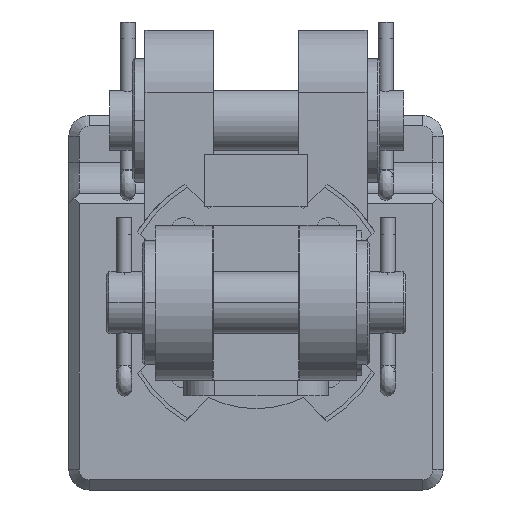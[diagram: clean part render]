
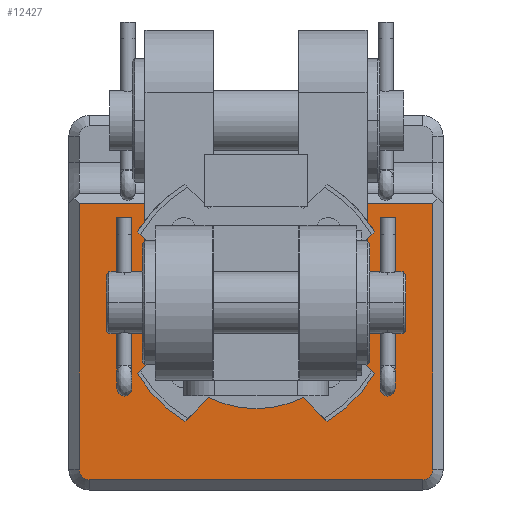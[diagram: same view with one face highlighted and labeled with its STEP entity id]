
A CAD part, left-side view. The second image highlights one B-rep face of the part: STEP entity #12427.
In plain terms, the highlighted planar face has unit normal (-1, 0, 0).
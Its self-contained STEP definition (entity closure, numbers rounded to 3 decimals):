
#11237=CARTESIAN_POINT('Vertex',(-27.5,34.25,19.25)) ;
#11248=CARTESIAN_POINT('Vertex',(-27.5,34.25,-32.259)) ;
#11251=CARTESIAN_POINT('Line Origine',(-27.5,34.25,-1.304)) ;
#11665=CARTESIAN_POINT('Line Origine',(-27.5,21.5,17.583)) ;
#11669=CARTESIAN_POINT('Vertex',(-27.5,21.5,19.25)) ;
#11671=CARTESIAN_POINT('Vertex',(-27.5,21.5,15.916)) ;
#11880=CARTESIAN_POINT('Vertex',(-27.5,-21.5,15.916)) ;
#11883=CARTESIAN_POINT('Line Origine',(-27.5,-21.5,17.583)) ;
#11887=CARTESIAN_POINT('Vertex',(-27.5,-21.5,19.25)) ;
#11958=CARTESIAN_POINT('Line Origine',(-27.5,-34.25,-1.304)) ;
#11962=CARTESIAN_POINT('Vertex',(-27.5,-34.25,-32.259)) ;
#11964=CARTESIAN_POINT('Vertex',(-27.5,-34.25,19.25)) ;
#12157=CARTESIAN_POINT('Vertex',(-27.5,-32.25,-34.259)) ;
#12160=CARTESIAN_POINT('Axis2P3D Location',(-27.5,-32.25,-32.259)) ;
#12181=CARTESIAN_POINT('Vertex',(-27.5,32.25,-34.259)) ;
#12184=CARTESIAN_POINT('Line Origine',(-27.5,0.,-34.259)) ;
#12287=CARTESIAN_POINT('Axis2P3D Location',(-27.5,32.25,-32.259)) ;
#12299=CARTESIAN_POINT('Axis2P3D Location',(-27.5,0.,-36.259)) ;
#12304=CARTESIAN_POINT('Line Origine',(-27.5,-27.875,19.25)) ;
#12309=CARTESIAN_POINT('Axis2P3D Location',(-27.5,0.,0.)) ;
#12313=CARTESIAN_POINT('Vertex',(-27.5,-22.944,13.752)) ;
#12316=CARTESIAN_POINT('Line Origine',(-27.5,-20.644,11.452)) ;
#12320=CARTESIAN_POINT('Vertex',(-27.5,-18.344,9.152)) ;
#12323=CARTESIAN_POINT('Axis2P3D Location',(-27.5,0.,0.)) ;
#12327=CARTESIAN_POINT('Vertex',(-27.5,-18.344,-9.152)) ;
#12330=CARTESIAN_POINT('Line Origine',(-27.5,-20.644,-11.452)) ;
#12334=CARTESIAN_POINT('Vertex',(-27.5,-22.944,-13.752)) ;
#12337=CARTESIAN_POINT('Axis2P3D Location',(-27.5,0.,0.)) ;
#12341=CARTESIAN_POINT('Vertex',(-27.5,-13.752,-22.944)) ;
#12344=CARTESIAN_POINT('Line Origine',(-27.5,-11.452,-20.644)) ;
#12348=CARTESIAN_POINT('Vertex',(-27.5,-9.152,-18.344)) ;
#12351=CARTESIAN_POINT('Axis2P3D Location',(-27.5,0.,0.)) ;
#12355=CARTESIAN_POINT('Vertex',(-27.5,9.152,-18.344)) ;
#12358=CARTESIAN_POINT('Line Origine',(-27.5,11.452,-20.644)) ;
#12362=CARTESIAN_POINT('Vertex',(-27.5,13.752,-22.944)) ;
#12365=CARTESIAN_POINT('Axis2P3D Location',(-27.5,0.,0.)) ;
#12369=CARTESIAN_POINT('Vertex',(-27.5,22.944,-13.752)) ;
#12372=CARTESIAN_POINT('Line Origine',(-27.5,20.644,-11.452)) ;
#12376=CARTESIAN_POINT('Vertex',(-27.5,18.344,-9.152)) ;
#12379=CARTESIAN_POINT('Axis2P3D Location',(-27.5,0.,0.)) ;
#12383=CARTESIAN_POINT('Vertex',(-27.5,18.344,9.152)) ;
#12386=CARTESIAN_POINT('Line Origine',(-27.5,20.644,11.452)) ;
#12390=CARTESIAN_POINT('Vertex',(-27.5,22.944,13.752)) ;
#12393=CARTESIAN_POINT('Axis2P3D Location',(-27.5,0.,0.)) ;
#12398=CARTESIAN_POINT('Line Origine',(-27.5,27.875,19.25)) ;
#11252=DIRECTION('Vector Direction',(0.,0.,-1.)) ;
#11666=DIRECTION('Vector Direction',(0.,0.,-1.)) ;
#11884=DIRECTION('Vector Direction',(0.,0.,-1.)) ;
#11959=DIRECTION('Vector Direction',(0.,0.,-1.)) ;
#12161=DIRECTION('Axis2P3D Direction',(-1.,0.,0.)) ;
#12185=DIRECTION('Vector Direction',(0.,1.,0.)) ;
#12288=DIRECTION('Axis2P3D Direction',(-1.,0.,0.)) ;
#12300=DIRECTION('Axis2P3D Direction',(-1.,0.,0.)) ;
#12301=DIRECTION('Axis2P3D XDirection',(0.,0.,1.)) ;
#12305=DIRECTION('Vector Direction',(0.,-1.,0.)) ;
#12310=DIRECTION('Axis2P3D Direction',(-1.,0.,0.)) ;
#12317=DIRECTION('Vector Direction',(0.,-0.707,0.707)) ;
#12324=DIRECTION('Axis2P3D Direction',(-1.,0.,0.)) ;
#12331=DIRECTION('Vector Direction',(0.,-0.707,-0.707)) ;
#12338=DIRECTION('Axis2P3D Direction',(-1.,0.,0.)) ;
#12345=DIRECTION('Vector Direction',(0.,-0.707,-0.707)) ;
#12352=DIRECTION('Axis2P3D Direction',(-1.,0.,0.)) ;
#12359=DIRECTION('Vector Direction',(0.,-0.707,0.707)) ;
#12366=DIRECTION('Axis2P3D Direction',(-1.,0.,0.)) ;
#12373=DIRECTION('Vector Direction',(0.,-0.707,0.707)) ;
#12380=DIRECTION('Axis2P3D Direction',(-1.,0.,0.)) ;
#12387=DIRECTION('Vector Direction',(0.,-0.707,-0.707)) ;
#12394=DIRECTION('Axis2P3D Direction',(-1.,0.,0.)) ;
#12399=DIRECTION('Vector Direction',(0.,-1.,0.)) ;
#12162=AXIS2_PLACEMENT_3D('Circle Axis2P3D',#12160,#12161,$) ;
#12289=AXIS2_PLACEMENT_3D('Circle Axis2P3D',#12287,#12288,$) ;
#12302=AXIS2_PLACEMENT_3D('Plane Axis2P3D',#12299,#12300,#12301) ;
#12311=AXIS2_PLACEMENT_3D('Circle Axis2P3D',#12309,#12310,$) ;
#12325=AXIS2_PLACEMENT_3D('Circle Axis2P3D',#12323,#12324,$) ;
#12339=AXIS2_PLACEMENT_3D('Circle Axis2P3D',#12337,#12338,$) ;
#12353=AXIS2_PLACEMENT_3D('Circle Axis2P3D',#12351,#12352,$) ;
#12367=AXIS2_PLACEMENT_3D('Circle Axis2P3D',#12365,#12366,$) ;
#12381=AXIS2_PLACEMENT_3D('Circle Axis2P3D',#12379,#12380,$) ;
#12395=AXIS2_PLACEMENT_3D('Circle Axis2P3D',#12393,#12394,$) ;
#12404=ORIENTED_EDGE('',*,*,#11255,.T.) ;
#12405=ORIENTED_EDGE('',*,*,#12291,.T.) ;
#12406=ORIENTED_EDGE('',*,*,#12188,.T.) ;
#12407=ORIENTED_EDGE('',*,*,#12164,.T.) ;
#12408=ORIENTED_EDGE('',*,*,#11966,.T.) ;
#12409=ORIENTED_EDGE('',*,*,#12308,.T.) ;
#12410=ORIENTED_EDGE('',*,*,#11889,.T.) ;
#12411=ORIENTED_EDGE('',*,*,#12315,.F.) ;
#12412=ORIENTED_EDGE('',*,*,#12322,.F.) ;
#12413=ORIENTED_EDGE('',*,*,#12329,.F.) ;
#12414=ORIENTED_EDGE('',*,*,#12336,.T.) ;
#12415=ORIENTED_EDGE('',*,*,#12343,.F.) ;
#12416=ORIENTED_EDGE('',*,*,#12350,.F.) ;
#12417=ORIENTED_EDGE('',*,*,#12357,.F.) ;
#12418=ORIENTED_EDGE('',*,*,#12364,.F.) ;
#12419=ORIENTED_EDGE('',*,*,#12371,.F.) ;
#12420=ORIENTED_EDGE('',*,*,#12378,.T.) ;
#12421=ORIENTED_EDGE('',*,*,#12385,.F.) ;
#12422=ORIENTED_EDGE('',*,*,#12392,.F.) ;
#12423=ORIENTED_EDGE('',*,*,#12397,.F.) ;
#12424=ORIENTED_EDGE('',*,*,#11673,.F.) ;
#12425=ORIENTED_EDGE('',*,*,#12402,.T.) ;
#11253=VECTOR('Line Direction',#11252,1.) ;
#11667=VECTOR('Line Direction',#11666,1.) ;
#11885=VECTOR('Line Direction',#11884,1.) ;
#11960=VECTOR('Line Direction',#11959,1.) ;
#12186=VECTOR('Line Direction',#12185,1.) ;
#12306=VECTOR('Line Direction',#12305,1.) ;
#12318=VECTOR('Line Direction',#12317,1.) ;
#12332=VECTOR('Line Direction',#12331,1.) ;
#12346=VECTOR('Line Direction',#12345,1.) ;
#12360=VECTOR('Line Direction',#12359,1.) ;
#12374=VECTOR('Line Direction',#12373,1.) ;
#12388=VECTOR('Line Direction',#12387,1.) ;
#12400=VECTOR('Line Direction',#12399,1.) ;
#12427=ADVANCED_FACE('PartBody',(#12426),#12303,.T.) ;
#12163=CIRCLE('generated circle',#12162,2.) ;
#12290=CIRCLE('generated circle',#12289,2.) ;
#12312=CIRCLE('generated circle',#12311,26.75) ;
#12326=CIRCLE('generated circle',#12325,20.5) ;
#12340=CIRCLE('generated circle',#12339,26.75) ;
#12354=CIRCLE('generated circle',#12353,20.5) ;
#12368=CIRCLE('generated circle',#12367,26.75) ;
#12382=CIRCLE('generated circle',#12381,20.5) ;
#12396=CIRCLE('generated circle',#12395,26.75) ;
#11255=EDGE_CURVE('',#11238,#11249,#11254,.T.) ;
#11673=EDGE_CURVE('',#11670,#11672,#11668,.T.) ;
#11889=EDGE_CURVE('',#11888,#11881,#11886,.T.) ;
#11966=EDGE_CURVE('',#11963,#11965,#11961,.F.) ;
#12164=EDGE_CURVE('',#12158,#11963,#12163,.T.) ;
#12188=EDGE_CURVE('',#12182,#12158,#12187,.F.) ;
#12291=EDGE_CURVE('',#11249,#12182,#12290,.T.) ;
#12308=EDGE_CURVE('',#11965,#11888,#12307,.F.) ;
#12315=EDGE_CURVE('',#12314,#11881,#12312,.T.) ;
#12322=EDGE_CURVE('',#12321,#12314,#12319,.T.) ;
#12329=EDGE_CURVE('',#12328,#12321,#12326,.T.) ;
#12336=EDGE_CURVE('',#12328,#12335,#12333,.T.) ;
#12343=EDGE_CURVE('',#12342,#12335,#12340,.T.) ;
#12350=EDGE_CURVE('',#12349,#12342,#12347,.T.) ;
#12357=EDGE_CURVE('',#12356,#12349,#12354,.T.) ;
#12364=EDGE_CURVE('',#12363,#12356,#12361,.T.) ;
#12371=EDGE_CURVE('',#12370,#12363,#12368,.T.) ;
#12378=EDGE_CURVE('',#12370,#12377,#12375,.T.) ;
#12385=EDGE_CURVE('',#12384,#12377,#12382,.T.) ;
#12392=EDGE_CURVE('',#12391,#12384,#12389,.T.) ;
#12397=EDGE_CURVE('',#11672,#12391,#12396,.T.) ;
#12402=EDGE_CURVE('',#11670,#11238,#12401,.F.) ;
#12403=EDGE_LOOP('',(#12404,#12405,#12406,#12407,#12408,#12409,#12410,#12411,#12412,#12413,#12414,#12415,#12416,#12417,#12418,#12419,#12420,#12421,#12422,#12423,#12424,#12425)) ;
#12426=FACE_OUTER_BOUND('',#12403,.T.) ;
#11254=LINE('Line',#11251,#11253) ;
#11668=LINE('Line',#11665,#11667) ;
#11886=LINE('Line',#11883,#11885) ;
#11961=LINE('Line',#11958,#11960) ;
#12187=LINE('Line',#12184,#12186) ;
#12307=LINE('Line',#12304,#12306) ;
#12319=LINE('Line',#12316,#12318) ;
#12333=LINE('Line',#12330,#12332) ;
#12347=LINE('Line',#12344,#12346) ;
#12361=LINE('Line',#12358,#12360) ;
#12375=LINE('Line',#12372,#12374) ;
#12389=LINE('Line',#12386,#12388) ;
#12401=LINE('Line',#12398,#12400) ;
#12303=PLANE('',#12302) ;
#11238=VERTEX_POINT('',#11237) ;
#11249=VERTEX_POINT('',#11248) ;
#11670=VERTEX_POINT('',#11669) ;
#11672=VERTEX_POINT('',#11671) ;
#11881=VERTEX_POINT('',#11880) ;
#11888=VERTEX_POINT('',#11887) ;
#11963=VERTEX_POINT('',#11962) ;
#11965=VERTEX_POINT('',#11964) ;
#12158=VERTEX_POINT('',#12157) ;
#12182=VERTEX_POINT('',#12181) ;
#12314=VERTEX_POINT('',#12313) ;
#12321=VERTEX_POINT('',#12320) ;
#12328=VERTEX_POINT('',#12327) ;
#12335=VERTEX_POINT('',#12334) ;
#12342=VERTEX_POINT('',#12341) ;
#12349=VERTEX_POINT('',#12348) ;
#12356=VERTEX_POINT('',#12355) ;
#12363=VERTEX_POINT('',#12362) ;
#12370=VERTEX_POINT('',#12369) ;
#12377=VERTEX_POINT('',#12376) ;
#12384=VERTEX_POINT('',#12383) ;
#12391=VERTEX_POINT('',#12390) ;
